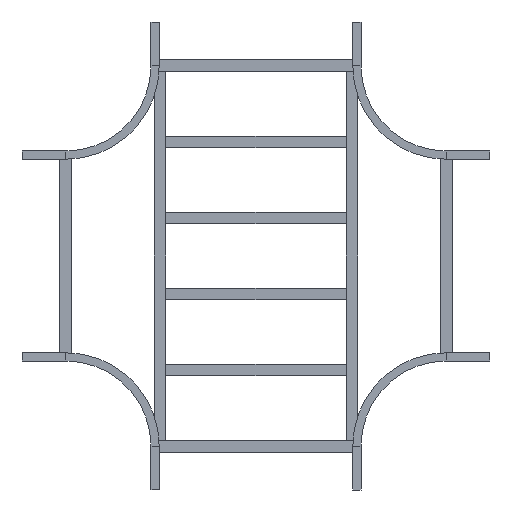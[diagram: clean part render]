
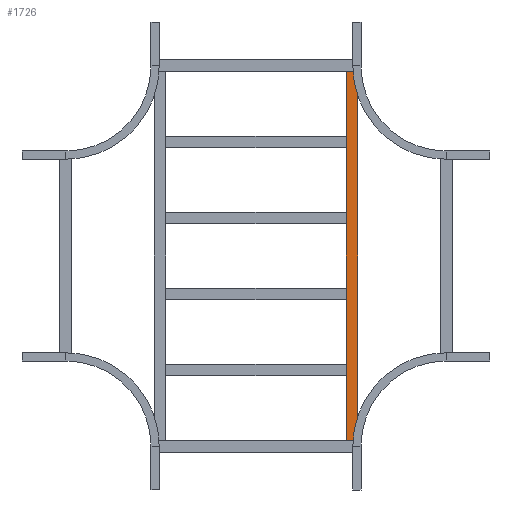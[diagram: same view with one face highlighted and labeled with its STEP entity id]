
A CAD part, front view. The second image highlights one B-rep face of the part: STEP entity #1726.
In plain terms, the highlighted planar face has unit normal (0, -1, 0).
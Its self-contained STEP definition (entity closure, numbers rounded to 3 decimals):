
#2 = AXIS2_PLACEMENT_3D ( 'NONE', #564, #1691, #2343 ) ;
#9 = EDGE_LOOP ( 'NONE', ( #1912, #352, #1313, #1741 ) ) ;
#117 = LINE ( 'NONE', #977, #2612 ) ;
#141 = DIRECTION ( 'NONE',  ( -1., 0., 0. ) ) ;
#352 = ORIENTED_EDGE ( 'NONE', *, *, #2045, .F. ) ;
#377 = CARTESIAN_POINT ( 'NONE',  ( 629.75, 0., -20.25 ) ) ;
#562 = LINE ( 'NONE', #377, #1002 ) ;
#564 = CARTESIAN_POINT ( 'NONE',  ( 629.75, 0., 20.25 ) ) ;
#610 = PLANE ( 'NONE',  #2 ) ;
#712 = CARTESIAN_POINT ( 'NONE',  ( -629.75, 0., -20.25 ) ) ;
#717 = VERTEX_POINT ( 'NONE', #725 ) ;
#725 = CARTESIAN_POINT ( 'NONE',  ( 629.75, 0., -20.25 ) ) ;
#753 = LINE ( 'NONE', #1348, #2475 ) ;
#977 = CARTESIAN_POINT ( 'NONE',  ( -629.75, 0., 20.25 ) ) ;
#1002 = VECTOR ( 'NONE', #141, 1000. ) ;
#1008 = CARTESIAN_POINT ( 'NONE',  ( -629.75, 0., 20.25 ) ) ;
#1204 = FACE_OUTER_BOUND ( 'NONE', #9, .T. ) ;
#1220 = EDGE_CURVE ( 'NONE', #1455, #2571, #117, .T. ) ;
#1313 = ORIENTED_EDGE ( 'NONE', *, *, #1885, .F. ) ;
#1348 = CARTESIAN_POINT ( 'NONE',  ( 629.75, 0., 20.25 ) ) ;
#1389 = DIRECTION ( 'NONE',  ( 0., 0., -1. ) ) ;
#1455 = VERTEX_POINT ( 'NONE', #1008 ) ;
#1583 = LINE ( 'NONE', #2455, #2566 ) ;
#1691 = DIRECTION ( 'NONE',  ( 0., 1., 0. ) ) ;
#1726 = ADVANCED_FACE ( 'NONE', ( #1204 ), #610, .F. ) ;
#1741 = ORIENTED_EDGE ( 'NONE', *, *, #2205, .T. ) ;
#1778 = DIRECTION ( 'NONE',  ( 0., 0., -1. ) ) ;
#1885 = EDGE_CURVE ( 'NONE', #2235, #717, #1583, .T. ) ;
#1898 = CARTESIAN_POINT ( 'NONE',  ( 629.75, 0., 20.25 ) ) ;
#1912 = ORIENTED_EDGE ( 'NONE', *, *, #1220, .T. ) ;
#2045 = EDGE_CURVE ( 'NONE', #717, #2571, #562, .T. ) ;
#2205 = EDGE_CURVE ( 'NONE', #2235, #1455, #753, .T. ) ;
#2222 = DIRECTION ( 'NONE',  ( -1., 0., 0. ) ) ;
#2235 = VERTEX_POINT ( 'NONE', #1898 ) ;
#2343 = DIRECTION ( 'NONE',  ( 0., 0., 1. ) ) ;
#2455 = CARTESIAN_POINT ( 'NONE',  ( 629.75, 0., 20.25 ) ) ;
#2475 = VECTOR ( 'NONE', #2222, 1000. ) ;
#2566 = VECTOR ( 'NONE', #1778, 1000. ) ;
#2571 = VERTEX_POINT ( 'NONE', #712 ) ;
#2612 = VECTOR ( 'NONE', #1389, 1000. ) ;
